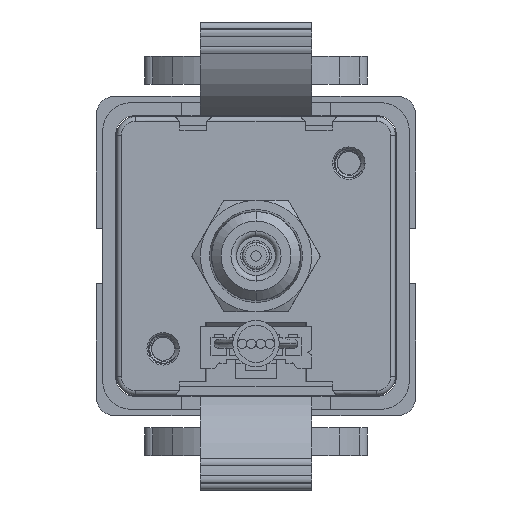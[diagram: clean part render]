
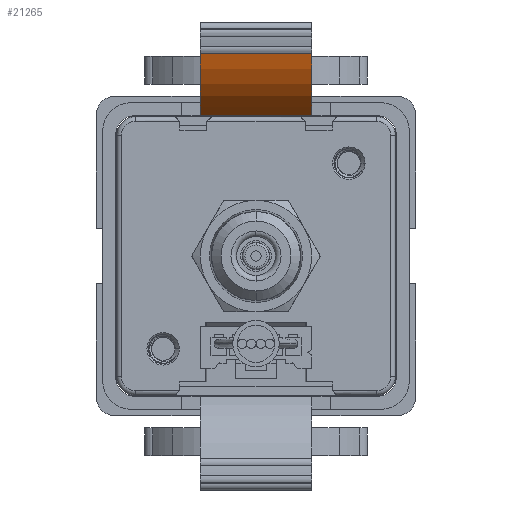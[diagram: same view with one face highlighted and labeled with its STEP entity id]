
A CAD part, front view. The second image highlights one B-rep face of the part: STEP entity #21265.
In plain terms, the highlighted cylindrical face has radius 10.5 mm (diameter 21 mm), a partial arc.
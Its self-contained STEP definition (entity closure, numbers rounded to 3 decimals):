
#3277=DIRECTION('',(1.,0.,0.));
#3278=VECTOR('',#3277,12.);
#3279=CARTESIAN_POINT('',(-6.,-0.631,21.792));
#3280=LINE('',#3279,#3278);
#3281=DIRECTION('',(-1.,0.,0.));
#3282=VECTOR('',#3281,5.5);
#3283=CARTESIAN_POINT('',(2.75,4.8,15.1));
#3284=LINE('',#3283,#3282);
#3311=CARTESIAN_POINT('',(-6.,9.519,24.48));
#3312=DIRECTION('',(1.,0.,0.));
#3313=DIRECTION('',(0.,-0.967,-0.256));
#3314=AXIS2_PLACEMENT_3D('',#3311,#3312,#3313);
#3357=DIRECTION('',(-1.,0.,0.));
#3358=VECTOR('',#3357,3.25);
#3359=CARTESIAN_POINT('',(6.,4.8,15.1));
#3360=LINE('',#3359,#3358);
#3373=DIRECTION('',(-1.,0.,0.));
#3374=VECTOR('',#3373,3.25);
#3375=CARTESIAN_POINT('',(-2.75,4.8,15.1));
#3376=LINE('',#3375,#3374);
#3385=CARTESIAN_POINT('',(6.,9.519,24.48));
#3386=DIRECTION('',(1.,0.,0.));
#3387=DIRECTION('',(0.,-0.967,-0.256));
#3388=AXIS2_PLACEMENT_3D('',#3385,#3386,#3387);
#16604=CARTESIAN_POINT('',(6.,4.8,15.1));
#16605=VERTEX_POINT('',#16604);
#16606=CARTESIAN_POINT('',(-6.,4.8,15.1));
#16607=VERTEX_POINT('',#16606);
#16608=CARTESIAN_POINT('',(-2.75,4.8,15.1));
#16610=VERTEX_POINT('',#16608);
#16612=CARTESIAN_POINT('',(2.75,4.8,15.1));
#16614=VERTEX_POINT('',#16612);
#16640=CARTESIAN_POINT('',(-6.,-0.631,21.792));
#16641=CARTESIAN_POINT('',(6.,-0.631,21.792));
#16642=VERTEX_POINT('',#16640);
#16643=VERTEX_POINT('',#16641);
#21247=CARTESIAN_POINT('',(-6.,9.519,24.48));
#21248=DIRECTION('',(1.,0.,0.));
#21249=DIRECTION('',(0.,0.,1.));
#21250=AXIS2_PLACEMENT_3D('',#21247,#21248,#21249);
#21251=CYLINDRICAL_SURFACE('',#21250,10.5);
#21253=ORIENTED_EDGE('',*,*,#21252,.T.);
#21255=ORIENTED_EDGE('',*,*,#21254,.T.);
#21257=ORIENTED_EDGE('',*,*,#21256,.T.);
#21258=ORIENTED_EDGE('',*,*,#21240,.T.);
#21260=ORIENTED_EDGE('',*,*,#21259,.T.);
#21262=ORIENTED_EDGE('',*,*,#21261,.F.);
#21263=EDGE_LOOP('',(#21253,#21255,#21257,#21258,#21260,#21262));
#21264=FACE_OUTER_BOUND('',#21263,.F.);
#21265=ADVANCED_FACE('',(#21264),#21251,.T.);
#3315=CIRCLE('',#3314,10.5);
#3389=CIRCLE('',#3388,10.5);
#21240=EDGE_CURVE('',#16614,#16610,#3284,.T.);
#21252=EDGE_CURVE('',#16642,#16643,#3280,.T.);
#21254=EDGE_CURVE('',#16643,#16605,#3389,.T.);
#21256=EDGE_CURVE('',#16605,#16614,#3360,.T.);
#21259=EDGE_CURVE('',#16610,#16607,#3376,.T.);
#21261=EDGE_CURVE('',#16642,#16607,#3315,.T.);
